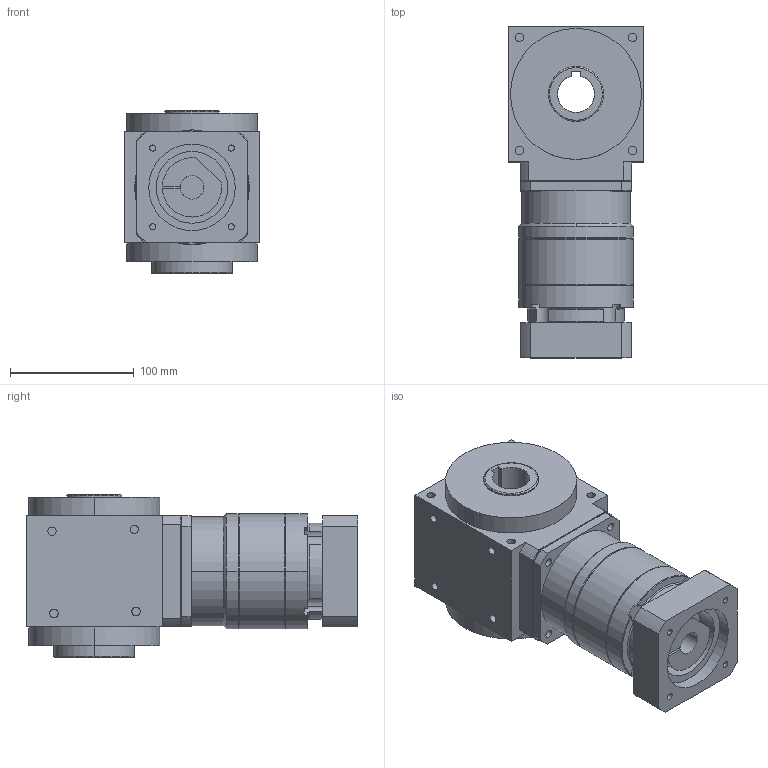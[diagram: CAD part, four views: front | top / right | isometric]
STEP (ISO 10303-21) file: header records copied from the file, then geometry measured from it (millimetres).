
FILE_DESCRIPTION (( 'STEP AP203' ), '1' );
FILE_NAME ('AAW110AS-L2-RFK 19-70-90-M6.STEP', '2024-12-24T05:45:32', ( '' ), ( '' ), 'SwSTEP 2.0', 'SolidWorks 2021', '' );
FILE_SCHEMA (( 'CONFIG_CONTROL_DESIGN' ));
Length unit declared in the file: millimetre
Products named in the file (3): AAW110AS-L2-RFK 19-70-90-M6; AAW110AS-RFK; VRB-090-L2-S2-P1 19-70-90-M6
Assembly tree (2 placements, depth 2):
  AAW110AS-L2-RFK 19-70-90-M6
    AAW110AS-RFK
    VRB-090-L2-S2-P1 19-70-90-M6
Bounding box: 110 x 268.5 x 131.5 mm (x, y, z)
Volume: 2299057.7 mm3; surface area: 180969.5 mm2
Topology: 2 solids, 2 shells, 263 faces, 606 edges, 391 vertices
Faces by surface type: cylinder 133, plane 87, cone 39, bspline 4
Entity records: 7964 total; most frequent: CARTESIAN_POINT 1457, DIRECTION 1417, ORIENTED_EDGE 1212, EDGE_CURVE 606, AXIS2_PLACEMENT_3D 591, VERTEX_POINT 391, CIRCLE 327, EDGE_LOOP 317
